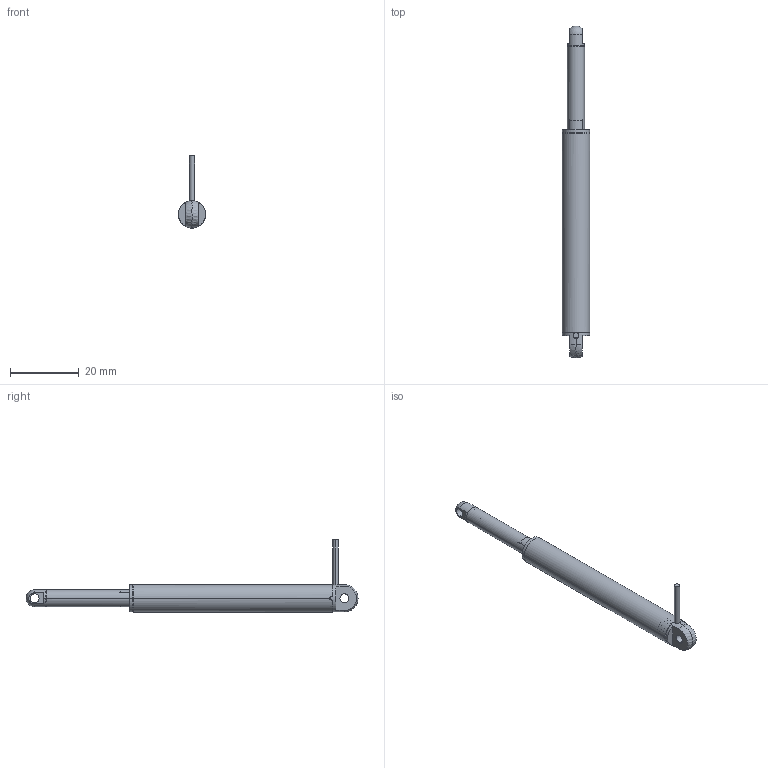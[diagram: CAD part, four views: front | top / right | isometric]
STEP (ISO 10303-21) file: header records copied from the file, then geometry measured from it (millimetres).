
FILE_DESCRIPTION((''),'2;1');
FILE_NAME('AC003_ASM_26011601_ASM','2026-01-21T11:40:14',('qinghui.yi'),(''),'CREO PARAMETRIC BY PTC INC, 2019164','CREO PARAMETRIC BY PTC INC, 2019164','');
FILE_SCHEMA(('CONFIG_CONTROL_DESIGN','SHAPE_APPEARANCE_LAYERS_GROUPS'));
Length unit declared in the file: millimetre
Products named in the file (11): TJ_HOLDER_MOTOR_1_1; 01_TJ_POWER_0612_ASM_1_ASM; HOUSING_8MM_LA_MW_INJECTION_V3_; GUIDER_8MM_LA_MW_CNC_V3_1; 01_TJ_HOUSING_ASM_1_ASM; PUSHROD_8MM_LA_MW_INJECTION_V3_; FRONT_END_8MM_LA_MW_CNC_1; 01_TJ_PUSHROD_ASM_1_ASM; CABLE_TJ_D8_L25_1; 00_TJ_D8_L25_ASM_1_ASM; AC003_ASM_26011601_ASM
Assembly tree (11 placements, depth 4):
  AC003_ASM_26011601_ASM
    00_TJ_D8_L25_ASM_1_ASM
      01_TJ_POWER_0612_ASM_1_ASM
        TJ_HOLDER_MOTOR_1_1
      01_TJ_HOUSING_ASM_1_ASM
        HOUSING_8MM_LA_MW_INJECTION_V3_
        GUIDER_8MM_LA_MW_CNC_V3_1
      01_TJ_PUSHROD_ASM_1_ASM  x2
        PUSHROD_8MM_LA_MW_INJECTION_V3_
        FRONT_END_8MM_LA_MW_CNC_1
      CABLE_TJ_D8_L25_1
Bounding box: 8 x 96.63 x 21 mm (x, y, z)
Volume: 1577.7 mm3; surface area: 6332 mm2
Topology: 8 solids, 8 shells, 284 faces, 760 edges, 498 vertices
Faces by surface type: plane 125, cylinder 106, cone 40, sphere 6, torus 4, bspline 3
Entity records: 10058 total; most frequent: CARTESIAN_POINT 2204, DIRECTION 1393, ORIENTED_EDGE 1302, EDGE_CURVE 651, AXIS2_PLACEMENT_3D 531, VERTEX_POINT 432, VECTOR 331, LINE 331
